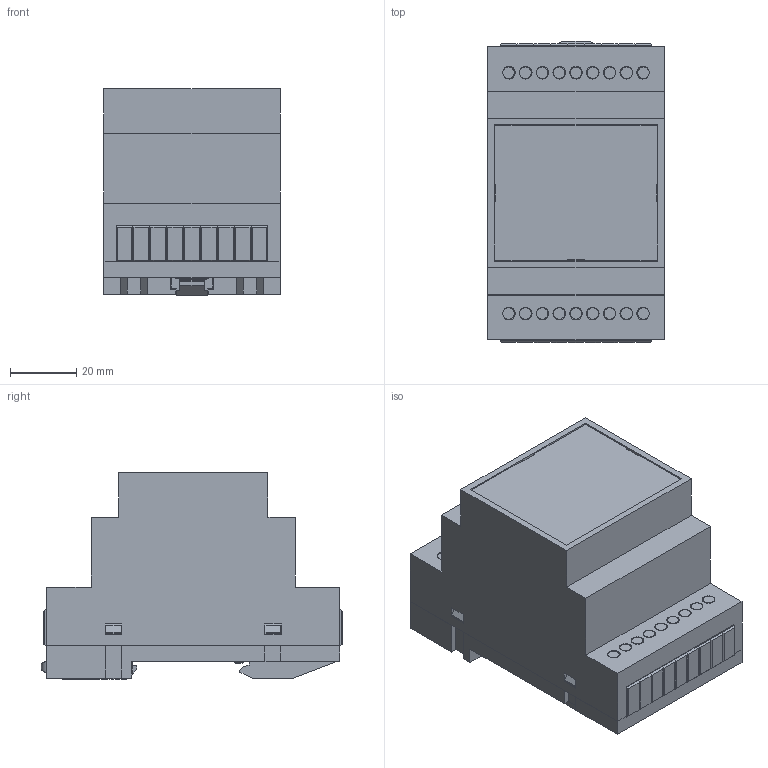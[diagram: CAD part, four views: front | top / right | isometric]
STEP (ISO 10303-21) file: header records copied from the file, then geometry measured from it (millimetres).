
FILE_DESCRIPTION(('STEP AP203'), '1');
FILE_NAME('3 ìîäóëÿ ñáîðêà', '', ('UNSPECIFIED'), ('UNSPECIFIED'), 'ASCON STEP Converter 1.6', 'ASCON Math Kernel', '');
FILE_SCHEMA(('CONFIG_CONTROL_DESIGN'));
Length unit declared in the file: millimetre
Products named in the file (6): Корпус-1; Крышка-1; Заглушка-1
Assembly tree (6 placements, depth 2):
  (unnamed)
    Корпус-1
    (unnamed)
    (unnamed)
    Крышка-1
    Заглушка-1  x2
Bounding box: 53 x 90.7 x 62.3 mm (x, y, z)
Volume: 49055.9 mm3; surface area: 58428.5 mm2
Topology: 6 solids, 6 shells, 1229 faces, 3385 edges, 2216 vertices
Faces by surface type: plane 993, cylinder 223, torus 8, revolution 2, bspline 2, cone 1
Full cylindrical faces by diameter (mm): 3.45 x18, 3.8 x18, 5 x8
Entity records: 38351 total; most frequent: CARTESIAN_POINT 5697, ORIENTED_EDGE 5230, DIRECTION 4885, EDGE_CURVE 2615, LINE 2221, VECTOR 2221, VERTEX_POINT 1738, AXIS2_PLACEMENT_3D 1331
